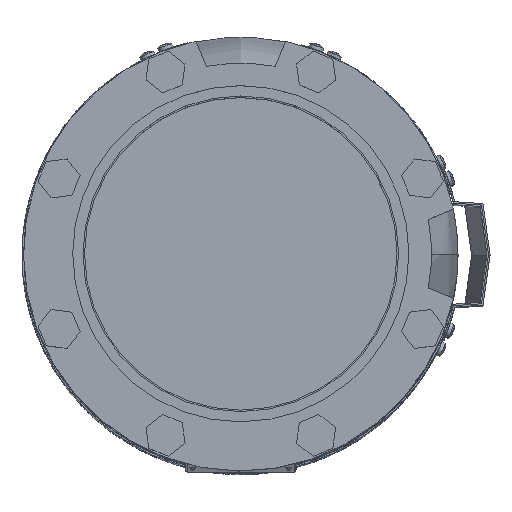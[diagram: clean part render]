
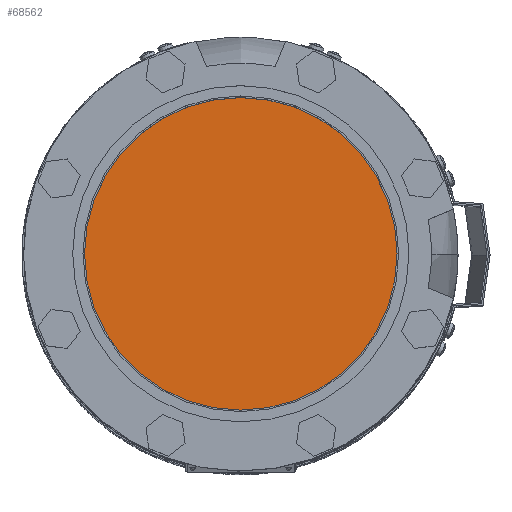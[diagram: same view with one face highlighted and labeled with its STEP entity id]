
A CAD part, top view. The second image highlights one B-rep face of the part: STEP entity #68562.
In plain terms, the highlighted planar face has unit normal (0, 0, 1) as drawn and (0, 1, 0) by its records, which use the part's own axes.
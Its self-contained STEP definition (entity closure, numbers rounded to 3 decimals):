
#629=CIRCLE('',#72256,102.5);
#630=CIRCLE('',#72257,102.5);
#16698=ORIENTED_EDGE('',*,*,#37490,.F.);
#16699=ORIENTED_EDGE('',*,*,#37491,.T.);
#37490=EDGE_CURVE('',#47886,#47887,#629,.T.);
#37491=EDGE_CURVE('',#47886,#47887,#630,.T.);
#47886=VERTEX_POINT('',#98940);
#47887=VERTEX_POINT('',#98941);
#55590=EDGE_LOOP('',(#16698,#16699));
#60541=FACE_BOUND('',#55590,.T.);
#65491=PLANE('',#72255);
#68562=ADVANCED_FACE('',(#60541),#65491,.T.);
#72255=AXIS2_PLACEMENT_3D('',#98938,#78984,#78985);
#72256=AXIS2_PLACEMENT_3D('',#98939,#78986,#78987);
#72257=AXIS2_PLACEMENT_3D('',#98942,#78988,#78989);
#78984=DIRECTION('',(0.,1.,0.));
#78985=DIRECTION('',(-1.,0.,0.));
#78986=DIRECTION('',(0.,-1.,0.));
#78987=DIRECTION('',(-1.,0.,0.));
#78988=DIRECTION('',(0.,1.,0.));
#78989=DIRECTION('',(-1.,0.,0.));
#98938=CARTESIAN_POINT('',(-109.56,216.5,0.));
#98939=CARTESIAN_POINT('',(0.,216.5,0.));
#98940=CARTESIAN_POINT('',(-102.5,216.5,0.));
#98941=CARTESIAN_POINT('',(102.5,216.5,0.));
#98942=CARTESIAN_POINT('',(0.,216.5,0.));
